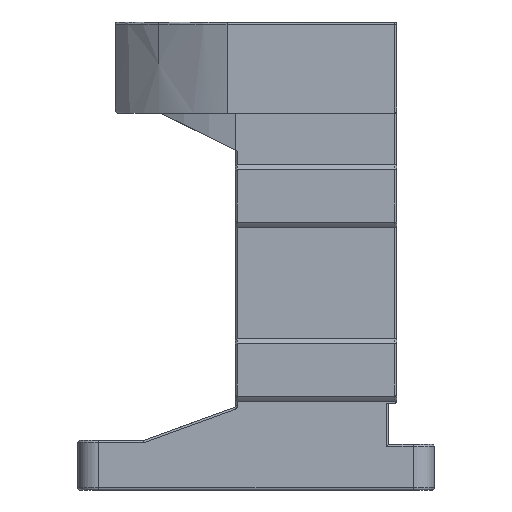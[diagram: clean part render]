
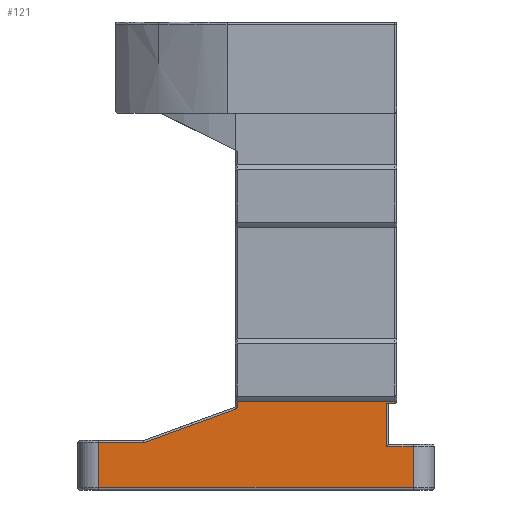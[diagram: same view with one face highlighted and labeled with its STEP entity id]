
A CAD part, left-side view. The second image highlights one B-rep face of the part: STEP entity #121.
In plain terms, the highlighted planar face has unit normal (-1, 0, 0).
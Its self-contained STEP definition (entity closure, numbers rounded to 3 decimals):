
#88 = ORIENTED_EDGE ( 'NONE', *, *, #3748, .T. ) ;
#92 = LINE ( 'NONE', #7474, #3766 ) ;
#121 = ADVANCED_FACE ( 'NONE', ( #6097 ), #4557, .F. ) ;
#188 = ORIENTED_EDGE ( 'NONE', *, *, #3635, .T. ) ;
#262 = AXIS2_PLACEMENT_3D ( 'NONE', #2852, #2654, #2160 ) ;
#293 = VERTEX_POINT ( 'NONE', #6102 ) ;
#294 = ORIENTED_EDGE ( 'NONE', *, *, #3955, .T. ) ;
#322 = CARTESIAN_POINT ( 'NONE',  ( -43., 26.746, 5.56 ) ) ;
#596 = ORIENTED_EDGE ( 'NONE', *, *, #4675, .T. ) ;
#612 = CARTESIAN_POINT ( 'NONE',  ( -43., 43., 4.5 ) ) ;
#746 = DIRECTION ( 'NONE',  ( 0., 0.94, -0.342 ) ) ;
#823 = ORIENTED_EDGE ( 'NONE', *, *, #3575, .T. ) ;
#858 = ORIENTED_EDGE ( 'NONE', *, *, #3321, .T. ) ;
#926 = CIRCLE ( 'NONE', #2660, 1. ) ;
#960 = ORIENTED_EDGE ( 'NONE', *, *, #2601, .T. ) ;
#1230 = VERTEX_POINT ( 'NONE', #7892 ) ;
#1287 = DIRECTION ( 'NONE',  ( 0., 0., -1. ) ) ;
#1388 = EDGE_CURVE ( 'NONE', #7089, #7221, #92, .T. ) ;
#1587 = VERTEX_POINT ( 'NONE', #5002 ) ;
#1622 = ORIENTED_EDGE ( 'NONE', *, *, #6670, .T. ) ;
#1793 = DIRECTION ( 'NONE',  ( 0., 0., 1. ) ) ;
#1831 = ORIENTED_EDGE ( 'NONE', *, *, #5135, .T. ) ;
#1857 = ORIENTED_EDGE ( 'NONE', *, *, #1388, .T. ) ;
#1892 = VERTEX_POINT ( 'NONE', #6663 ) ;
#1900 = CARTESIAN_POINT ( 'NONE',  ( -43., -31.5, 15. ) ) ;
#1923 = CARTESIAN_POINT ( 'NONE',  ( -43., 4.5, 15.45 ) ) ;
#2005 = CARTESIAN_POINT ( 'NONE',  ( -43., -31.5, 6. ) ) ;
#2024 = CARTESIAN_POINT ( 'NONE',  ( -43., 38., 6. ) ) ;
#2060 = ORIENTED_EDGE ( 'NONE', *, *, #7327, .T. ) ;
#2160 = DIRECTION ( 'NONE',  ( 0., 1., 0. ) ) ;
#2206 = DIRECTION ( 'NONE',  ( 0., 1., 0. ) ) ;
#2362 = CARTESIAN_POINT ( 'NONE',  ( -43., -43., 15.45 ) ) ;
#2427 = VERTEX_POINT ( 'NONE', #8150 ) ;
#2438 = LINE ( 'NONE', #2024, #3793 ) ;
#2450 = EDGE_LOOP ( 'NONE', ( #1831, #1622, #5787, #2060, #1857, #960, #858, #596, #823, #188, #88, #2491, #294 ) ) ;
#2491 = ORIENTED_EDGE ( 'NONE', *, *, #3854, .T. ) ;
#2542 = VECTOR ( 'NONE', #3009, 1000. ) ;
#2601 = EDGE_CURVE ( 'NONE', #7221, #2427, #7597, .T. ) ;
#2654 = DIRECTION ( 'NONE',  ( 1., 0., 0. ) ) ;
#2660 = AXIS2_PLACEMENT_3D ( 'NONE', #4919, #4890, #4881 ) ;
#2852 = CARTESIAN_POINT ( 'NONE',  ( -43., 27.088, 6.5 ) ) ;
#2903 = LINE ( 'NONE', #2362, #5960 ) ;
#2991 = LINE ( 'NONE', #3266, #6248 ) ;
#3009 = DIRECTION ( 'NONE',  ( 0., 1., 0. ) ) ;
#3214 = DIRECTION ( 'NONE',  ( 0., 1., 0. ) ) ;
#3232 = VERTEX_POINT ( 'NONE', #4424 ) ;
#3266 = CARTESIAN_POINT ( 'NONE',  ( -43., -32., 15. ) ) ;
#3321 = EDGE_CURVE ( 'NONE', #2427, #4639, #5147, .T. ) ;
#3357 = DIRECTION ( 'NONE',  ( 0., 0., 1. ) ) ;
#3554 = CARTESIAN_POINT ( 'NONE',  ( -43., -33.5, 6. ) ) ;
#3575 = EDGE_CURVE ( 'NONE', #6272, #1587, #8260, .T. ) ;
#3635 = EDGE_CURVE ( 'NONE', #1587, #4375, #2903, .T. ) ;
#3726 = LINE ( 'NONE', #322, #6970 ) ;
#3748 = EDGE_CURVE ( 'NONE', #4375, #3755, #8357, .T. ) ;
#3755 = VERTEX_POINT ( 'NONE', #6987 ) ;
#3766 = VECTOR ( 'NONE', #5920, 1000. ) ;
#3793 = VECTOR ( 'NONE', #1287, 1000. ) ;
#3854 = EDGE_CURVE ( 'NONE', #3755, #1230, #926, .T. ) ;
#3861 = CARTESIAN_POINT ( 'NONE',  ( -43., -33.5, 15. ) ) ;
#3955 = EDGE_CURVE ( 'NONE', #1230, #8118, #3726, .T. ) ;
#4375 = VERTEX_POINT ( 'NONE', #1923 ) ;
#4380 = DIRECTION ( 'NONE',  ( 0., -1., 0. ) ) ;
#4424 = CARTESIAN_POINT ( 'NONE',  ( -43., 38., -5.5 ) ) ;
#4451 = CARTESIAN_POINT ( 'NONE',  ( -43., 26.746, 5.56 ) ) ;
#4503 = LINE ( 'NONE', #7555, #2542 ) ;
#4519 = VECTOR ( 'NONE', #4380, 1000. ) ;
#4557 = PLANE ( 'NONE',  #5012 ) ;
#4639 = VERTEX_POINT ( 'NONE', #1900 ) ;
#4675 = EDGE_CURVE ( 'NONE', #4639, #6272, #2991, .T. ) ;
#4676 = DIRECTION ( 'NONE',  ( 0., 1., 0. ) ) ;
#4741 = DIRECTION ( 'NONE',  ( 1., 0., 0. ) ) ;
#4881 = DIRECTION ( 'NONE',  ( 0., 1., 0. ) ) ;
#4890 = DIRECTION ( 'NONE',  ( 1., 0., 0. ) ) ;
#4919 = CARTESIAN_POINT ( 'NONE',  ( -43., 5.5, 14.35 ) ) ;
#4994 = CARTESIAN_POINT ( 'NONE',  ( -43., 43., -5.5 ) ) ;
#5002 = CARTESIAN_POINT ( 'NONE',  ( -43., -33.5, 15.45 ) ) ;
#5012 = AXIS2_PLACEMENT_3D ( 'NONE', #6454, #4741, #4676 ) ;
#5135 = EDGE_CURVE ( 'NONE', #8118, #1892, #7944, .T. ) ;
#5147 = LINE ( 'NONE', #2005, #6860 ) ;
#5203 = DIRECTION ( 'NONE',  ( 0., -1., 0. ) ) ;
#5623 = DIRECTION ( 'NONE',  ( 0., 0., -1. ) ) ;
#5703 = CARTESIAN_POINT ( 'NONE',  ( -43., 4.5, 6. ) ) ;
#5787 = ORIENTED_EDGE ( 'NONE', *, *, #6988, .T. ) ;
#5873 = VECTOR ( 'NONE', #2206, 1000. ) ;
#5920 = DIRECTION ( 'NONE',  ( 0., 0., 1. ) ) ;
#5960 = VECTOR ( 'NONE', #3214, 1000. ) ;
#6097 = FACE_OUTER_BOUND ( 'NONE', #2450, .T. ) ;
#6102 = CARTESIAN_POINT ( 'NONE',  ( -43., 38., 5.5 ) ) ;
#6248 = VECTOR ( 'NONE', #5203, 1000. ) ;
#6272 = VERTEX_POINT ( 'NONE', #3861 ) ;
#6454 = CARTESIAN_POINT ( 'NONE',  ( -43., 43., 6. ) ) ;
#6618 = LINE ( 'NONE', #4994, #4519 ) ;
#6645 = VECTOR ( 'NONE', #5623, 1000. ) ;
#6663 = CARTESIAN_POINT ( 'NONE',  ( -43., 27.088, 5.5 ) ) ;
#6670 = EDGE_CURVE ( 'NONE', #1892, #293, #4503, .T. ) ;
#6768 = VECTOR ( 'NONE', #3357, 1000. ) ;
#6823 = CARTESIAN_POINT ( 'NONE',  ( -43., -38., 4.5 ) ) ;
#6860 = VECTOR ( 'NONE', #1793, 1000. ) ;
#6970 = VECTOR ( 'NONE', #746, 1000. ) ;
#6987 = CARTESIAN_POINT ( 'NONE',  ( -43., 4.5, 14.35 ) ) ;
#6988 = EDGE_CURVE ( 'NONE', #293, #3232, #2438, .T. ) ;
#7089 = VERTEX_POINT ( 'NONE', #7436 ) ;
#7221 = VERTEX_POINT ( 'NONE', #6823 ) ;
#7327 = EDGE_CURVE ( 'NONE', #3232, #7089, #6618, .T. ) ;
#7436 = CARTESIAN_POINT ( 'NONE',  ( -43., -38., -5.5 ) ) ;
#7474 = CARTESIAN_POINT ( 'NONE',  ( -43., -38., 6. ) ) ;
#7555 = CARTESIAN_POINT ( 'NONE',  ( -43., 38., 5.5 ) ) ;
#7597 = LINE ( 'NONE', #612, #5873 ) ;
#7892 = CARTESIAN_POINT ( 'NONE',  ( -43., 5.158, 13.41 ) ) ;
#7944 = CIRCLE ( 'NONE', #262, 1. ) ;
#8118 = VERTEX_POINT ( 'NONE', #4451 ) ;
#8150 = CARTESIAN_POINT ( 'NONE',  ( -43., -31.5, 4.5 ) ) ;
#8260 = LINE ( 'NONE', #3554, #6768 ) ;
#8357 = LINE ( 'NONE', #5703, #6645 ) ;
